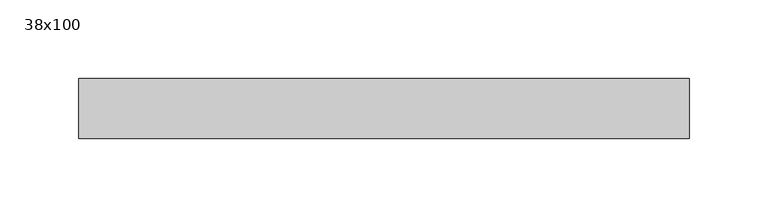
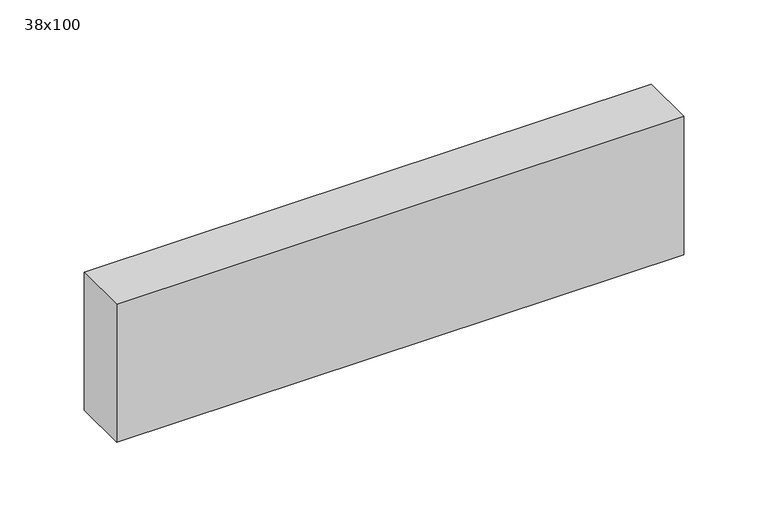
"""IFC4 building model written with IfcOpenShell, lengths in millimetres: beam geometry, Poutre - Bois de construction de dimensions courantes : 38x100."""

from ifc_helpers import new_model, si_unit, frame, origin, place, context, project, spatial, polyline, outline, extrude, source, transform, mapped, element, save


def beam_38x100_0c87dc06(model_context):
    return source(origin(), model_context, "Body", "SweptSolid", [
        extrude(outline(polyline([(319.0, 19.05), (319.0, -19.05), (-69.0, -19.05), (-69.0, 19.05), (319.0, 19.05)])), frame((0.0, 0.0, -50.0), z_axis=(0.0, 0.0, 1.0), x_axis=(1.0, 0.0, 0.0)), (0.0, 0.0, 1.0), 100.0),
    ])


if __name__ == "__main__":
    model = new_model("IFC4")
    model_context = context("Model", 3, world=origin())
    ifc_project = project(units=[si_unit("LENGTHUNIT", "METRE", prefix="MILLI")], contexts=[model_context])
    site = spatial("IfcSite", under=ifc_project)
    building = spatial("IfcBuilding", under=site)
    placement = place(None, origin())
    beam_38x100_shape = beam_38x100_0c87dc06(model_context)
    element("IfcBeam", 1, ObjectType="Poutre - Bois de construction de dimensions courantes : 38x100", at=placement, inside=building, context=model_context, shape_type="MappedRepresentation", body=[
        mapped(beam_38x100_shape, transform((0.0, 0.0, 0.0), x_axis=(1.0, 0.0, 0.0), y_axis=(0.0, 1.0, 0.0), z_axis=(0.0, 0.0, 1.0))),
    ])
    save(model, "model.ifc")
